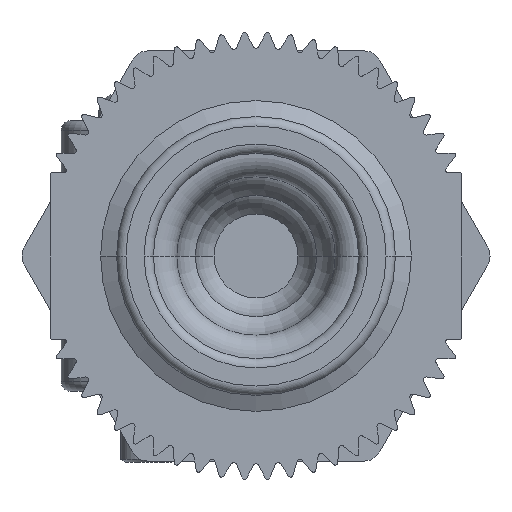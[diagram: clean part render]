
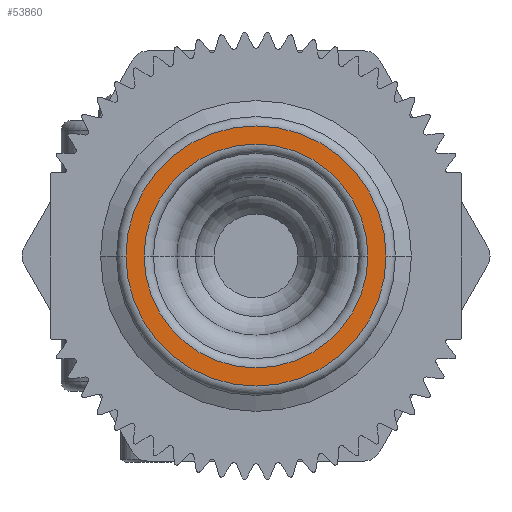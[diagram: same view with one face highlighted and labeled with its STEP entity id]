
A CAD part, left-side view. The second image highlights one B-rep face of the part: STEP entity #53860.
In plain terms, the highlighted planar face has unit normal (-1, 0, 0).
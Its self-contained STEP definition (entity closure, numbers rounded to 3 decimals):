
#53370=CARTESIAN_POINT('',(-3.959,29.644,
6.975));
#53380=VERTEX_POINT('',#53370);
#53410=CARTESIAN_POINT('',(-3.959,29.644,
0.));
#53420=DIRECTION('',(1.,0.,0.));
#53430=DIRECTION('',(0.,0.,1.));
#53440=AXIS2_PLACEMENT_3D('',#53410,#53420,#53430);
#53450=CIRCLE('',#53440,6.975);
#53460=CARTESIAN_POINT('',(-3.959,29.644,
-6.975));
#53470=VERTEX_POINT('',#53460);
#53480=EDGE_CURVE('',#53470,#53380,#53450,.T.);
#53610=CARTESIAN_POINT('',(-3.959,29.644,
6.4));
#53620=DIRECTION('',(1.,0.,0.));
#53630=DIRECTION('',(0.,0.,-1.));
#53640=AXIS2_PLACEMENT_3D('',#53610,#53620,#53630);
#53650=PLANE('',#53640);
#53660=CARTESIAN_POINT('',(-3.959,29.644,
0.));
#53670=DIRECTION('',(1.,0.,0.));
#53680=DIRECTION('',(0.,0.,1.));
#53690=AXIS2_PLACEMENT_3D('',#53660,#53670,#53680);
#53700=CIRCLE('',#53690,6.);
#53710=CARTESIAN_POINT('',(-3.959,29.644,
6.));
#53720=VERTEX_POINT('',#53710);
#53730=CARTESIAN_POINT('',(-3.959,29.644,
-6.));
#53740=VERTEX_POINT('',#53730);
#53750=EDGE_CURVE('',#53720,#53740,#53700,.T.);
#53760=ORIENTED_EDGE('',*,*,#53750,.T.);
#53770=EDGE_CURVE('',#53740,#53720,#53700,.T.);
#53780=ORIENTED_EDGE('',*,*,#53770,.T.);
#53790=EDGE_LOOP('',(#53780,#53760));
#53800=FACE_BOUND('',#53790,.T.);
#53810=EDGE_CURVE('',#53380,#53470,#53450,.T.);
#53820=ORIENTED_EDGE('',*,*,#53810,.F.);
#53830=ORIENTED_EDGE('',*,*,#53480,.F.);
#53840=EDGE_LOOP('',(#53830,#53820));
#53850=FACE_OUTER_BOUND('',#53840,.T.);
#53860=ADVANCED_FACE('',(#53800,#53850),#53650,.F.);
